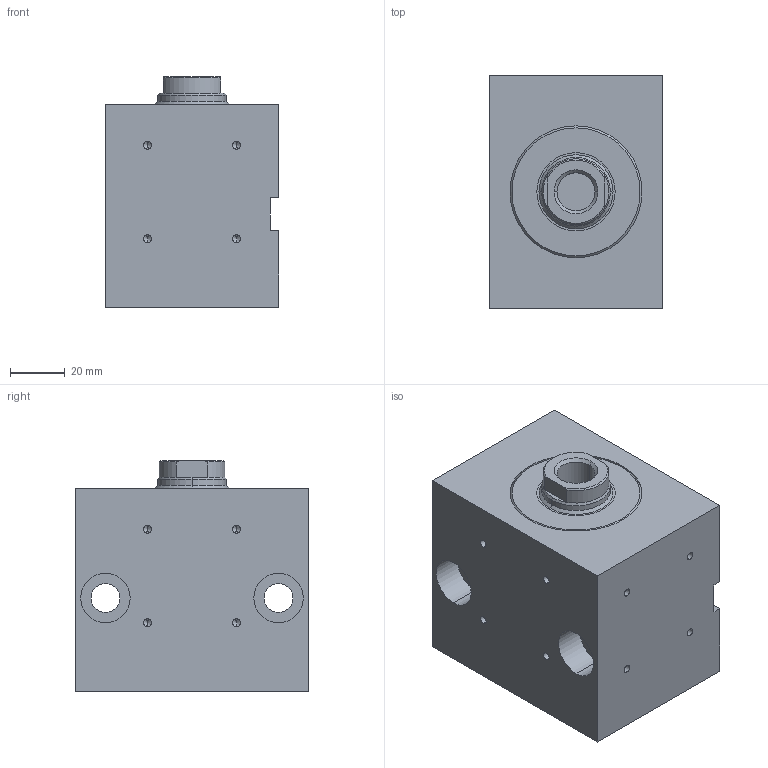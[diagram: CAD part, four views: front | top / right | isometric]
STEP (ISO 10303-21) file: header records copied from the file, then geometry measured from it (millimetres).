
FILE_DESCRIPTION (( 'STEP AP203' ), '1' );
FILE_NAME ('BZ_500.40_25.33.201.020 PP.NS40__DH_0_.STEP', '2022-05-26T15:46:34', ( '' ), ( '' ), 'SwSTEP 2.0', 'SolidWorks 2020', '' );
FILE_SCHEMA (( 'CONFIG_CONTROL_DESIGN' ));
Length unit declared in the file: millimetre
Products named in the file (7): _O-Ring 9x2 - Art. 104351^BZ_500.40_25.33.201.020 PP.NS40__DH_0_(2)_BZ_500.40_25.33.201.020 PP.NS40__DH_0_; BZ_500.40_25.33.201.020 PP.NS40__DH_0_(2)^BZ_500.40_25.33.201.020 PP.NS40__DH_0_; BZ_500.40_25.33.201.020 PP.NS40__DH_0_; _Kolbenstange komplett f. BZ_RZ_FZ.40_25.xx.201.20(0_11 1 16 2 0 0 10 25 0 0 0)0^BZ_500.40_25.33.201.020 PP.NS40__DH_0_(2)_BZ_500.40_25.33.201.020 PP.NS40__DH_0_; _Gehaeuse f. BZ500.40_25.33.201.20.N1.m (m = Nut spiegelbildlich40)Nut rechts, Senkungen links00(140frei1330220))7^BZ_500.40_25.33.201.020 PP.NS40__DH_0_(2)_BZ_500.40_25.33.201.020 PP.NS40__DH~; _Dichtungssatz f. BZ_RZ_FZ.40_25.xx.201.20 Artikelnr._ 013543(0)^BZ_500.40_25.33.201.020 PP.NS40__DH_0_(2)_BZ_500.40_25.33.201.020 PP.NS40__DH_0_; _Verschraubung komplett mit Dichtung f. BZ_RZ_FZ.40_25.201, Art.-Nr._ 041752(201)^BZ_500.40_25.33.201.020 PP.NS40__DH_0_(2)_BZ_500.40_25.33.201.020 PP.NS40__DH_0_
Assembly tree (7 placements, depth 3):
  BZ_500.40_25.33.201.020 PP.NS40__DH_0_
    BZ_500.40_25.33.201.020 PP.NS40__DH_0_(2)^BZ_500.40_25.33.201.020 PP.NS40__DH_0_
      _Gehaeuse f. BZ500.40_25.33.201.20.N1.m (m = Nut spiegelbildlich40)Nut rechts, Senkungen links00(140frei1330220))7^BZ_500.40_25.33.201.020 PP.NS40__DH_0_(2)_BZ_500.40_25.33.201.020 PP.NS40__DH~
      _Verschraubung komplett mit Dichtung f. BZ_RZ_FZ.40_25.201, Art.-Nr._ 041752(201)^BZ_500.40_25.33.201.020 PP.NS40__DH_0_(2)_BZ_500.40_25.33.201.020 PP.NS40__DH_0_
      _Dichtungssatz f. BZ_RZ_FZ.40_25.xx.201.20 Artikelnr._ 013543(0)^BZ_500.40_25.33.201.020 PP.NS40__DH_0_(2)_BZ_500.40_25.33.201.020 PP.NS40__DH_0_
      _Kolbenstange komplett f. BZ_RZ_FZ.40_25.xx.201.20(0_11 1 16 2 0 0 10 25 0 0 0)0^BZ_500.40_25.33.201.020 PP.NS40__DH_0_(2)_BZ_500.40_25.33.201.020 PP.NS40__DH_0_
      _O-Ring 9x2 - Art. 104351^BZ_500.40_25.33.201.020 PP.NS40__DH_0_(2)_BZ_500.40_25.33.201.020 PP.NS40__DH_0_  x2
Bounding box: 63 x 85 x 84 mm (x, y, z)
Volume: 362168.7 mm3; surface area: 68481.9 mm2
Topology: 6 solids, 6 shells, 154 faces, 353 edges, 209 vertices
Faces by surface type: cylinder 70, plane 38, cone 34, torus 12
Entity records: 4834 total; most frequent: DIRECTION 783, CARTESIAN_POINT 727, ORIENTED_EDGE 626, AXIS2_PLACEMENT_3D 323, EDGE_CURVE 313, VERTEX_POINT 199, EDGE_LOOP 182, CIRCLE 166
